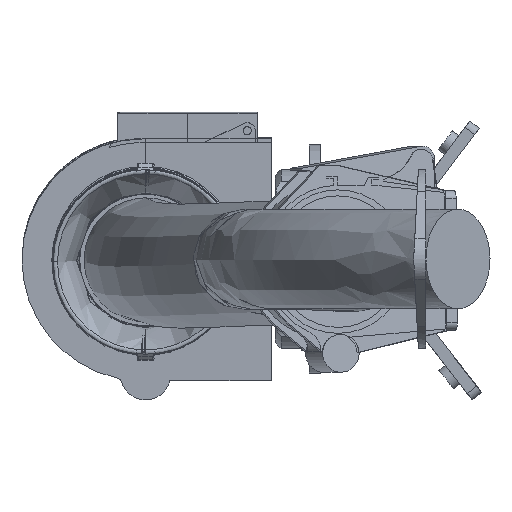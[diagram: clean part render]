
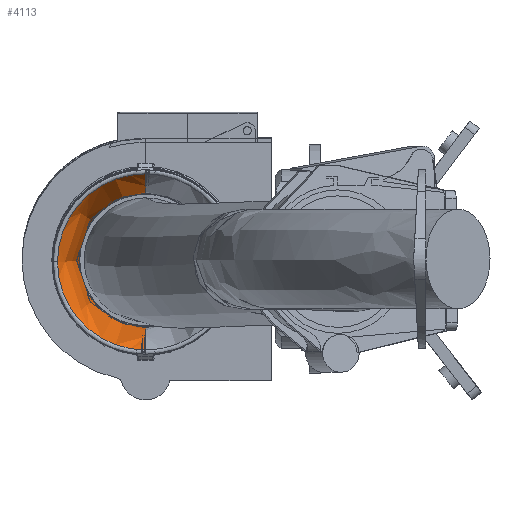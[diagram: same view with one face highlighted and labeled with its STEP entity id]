
A CAD part, left-side view. The second image highlights one B-rep face of the part: STEP entity #4113.
In plain terms, the highlighted free-form (B-spline) face has degree [3, 3] with [9, 4] control points.
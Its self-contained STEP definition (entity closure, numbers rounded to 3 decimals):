
#194 = CARTESIAN_POINT ( 'NONE',  ( 1644.829, 296.369, 1832.74 ) ) ;
#465 = DIRECTION ( 'NONE',  ( -1., 0., -0.028 ) ) ;
#773 = CARTESIAN_POINT ( 'NONE',  ( 1631.644, 229.5, 1762.155 ) ) ;
#971 = CARTESIAN_POINT ( 'NONE',  ( 1636.326, 229.5, 1833.834 ) ) ;
#2111 = CIRCLE ( 'NONE', #8940, 33.324 ) ;
#2155 = DIRECTION ( 'NONE',  ( -1., 0., -0.028 ) ) ;
#2642 = CIRCLE ( 'NONE', #29744, 44.196 ) ;
#3020 = ORIENTED_EDGE ( 'NONE', *, *, #3655, .T. ) ;
#3517 = CARTESIAN_POINT ( 'NONE',  ( 1618.832, 229.5, 1840.919 ) ) ;
#3632 = CARTESIAN_POINT ( 'NONE',  ( 1625.454, 229.5, 1759.039 ) ) ;
#3655 = EDGE_CURVE ( 'NONE', #9169, #21367, #36107, .T. ) ;
#4113 = ADVANCED_FACE ( 'NONE', ( #27087 ), #15157, .F. ) ;
#4238 = ORIENTED_EDGE ( 'NONE', *, *, #30033, .F. ) ;
#5313 = DIRECTION ( 'NONE',  ( 0., 1., 0. ) ) ;
#5326 = EDGE_CURVE ( 'NONE', #31260, #15218, #6549, .T. ) ;
#5550 = ORIENTED_EDGE ( 'NONE', *, *, #19263, .F. ) ;
#5662 = CARTESIAN_POINT ( 'NONE',  ( 1641.93, 297.006, 1832.977 ) ) ;
#5857 = CARTESIAN_POINT ( 'NONE',  ( 1648.145, 229.5, 1766.048 ) ) ;
#6048 = CARTESIAN_POINT ( 'NONE',  ( 1646.709, 296.369, 1765.898 ) ) ;
#6420 = CARTESIAN_POINT ( 'NONE',  ( 1643.828, 297.006, 1765.498 ) ) ;
#6549 = B_SPLINE_CURVE_WITH_KNOTS ( 'NONE', 3,
 ( #27189, #6905, #36444, #27374, #30238, #3632, #15250, #24480, #13115 ),
 .UNSPECIFIED., .F., .F.,
 ( 4, 1, 1, 1, 1, 1, 4 ),
 ( 0., 0.125, 0.25, 0.5, 0.75, 0.875, 0.955 ),
 .UNSPECIFIED. ) ;
#6608 = CARTESIAN_POINT ( 'NONE',  ( 1616.904, 229.5, 1842.189 ) ) ;
#6616 = CARTESIAN_POINT ( 'NONE',  ( 1616.165, 229.5, 1842.7 ) ) ;
#6812 = CARTESIAN_POINT ( 'NONE',  ( 1618.832, 229.5, 1840.919 ) ) ;
#6905 = CARTESIAN_POINT ( 'NONE',  ( 1646.709, 229.5, 1765.898 ) ) ;
#7626 = CIRCLE ( 'NONE', #33491, 44.196 ) ;
#8571 = CARTESIAN_POINT ( 'NONE',  ( 1641.93, 229.5, 1832.977 ) ) ;
#8940 = AXIS2_PLACEMENT_3D ( 'NONE', #17456, #2155, #29178 ) ;
#9169 = VERTEX_POINT ( 'NONE', #15601 ) ;
#9688 = CARTESIAN_POINT ( 'NONE',  ( 1644.829, 229.5, 1832.74 ) ) ;
#10123 = VERTEX_POINT ( 'NONE', #37640 ) ;
#12051 = CARTESIAN_POINT ( 'NONE',  ( 1644.829, 229.5, 1832.74 ) ) ;
#12229 = CARTESIAN_POINT ( 'NONE',  ( 1623.223, 229.5, 1838.394 ) ) ;
#12420 = CARTESIAN_POINT ( 'NONE',  ( 1625.454, 229.5, 1759.039 ) ) ;
#12810 = CARTESIAN_POINT ( 'NONE',  ( 1616.904, 229.5, 1842.189 ) ) ;
#13006 = CARTESIAN_POINT ( 'NONE',  ( 1641.93, 229.5, 1832.977 ) ) ;
#13014 = CARTESIAN_POINT ( 'NONE',  ( 1623.223, 308.886, 1838.394 ) ) ;
#13115 = CARTESIAN_POINT ( 'NONE',  ( 1618.65, 229.5, 1754.342 ) ) ;
#14590 = CARTESIAN_POINT ( 'NONE',  ( 1646.271, 229.5, 1832.67 ) ) ;
#14631 = CIRCLE ( 'NONE', #35514, 33.324 ) ;
#15139 = CARTESIAN_POINT ( 'NONE',  ( 1629.578, 229.5, 1835.63 ) ) ;
#15157 =( BOUNDED_SURFACE ( )  B_SPLINE_SURFACE ( 3, 3, ( 
 ( #5857, #21105, #32490, #14590 ),
 ( #17663, #6048, #194, #12051 ),
 ( #32868, #6420, #5662, #8571 ),
 ( #20354, #17472, #18983, #971 ),
 ( #773, #16105, #30700, #27458 ),
 ( #12420, #33808, #13014, #21683 ),
 ( #21866, #27825, #28006, #6812 ),
 ( #15715, #36125, #15907, #12810 ),
 ( #24374, #22049, #19175, #6616 ) ),
 .UNSPECIFIED., .F., .F., .F. ) 
 B_SPLINE_SURFACE_WITH_KNOTS ( ( 4, 1, 1, 1, 1, 1, 4 ),
 ( 4, 4 ),
 ( 0., 0.125, 0.25, 0.5, 0.75, 0.875, 0.955 ),
 ( 0., 1. ),
 .UNSPECIFIED. ) 
 GEOMETRIC_REPRESENTATION_ITEM ( )  RATIONAL_B_SPLINE_SURFACE ( (
 ( 1., 0.333, 0.333, 1.),
 ( 1., 0.333, 0.333, 1.),
 ( 1., 0.333, 0.333, 1.),
 ( 1., 0.333, 0.333, 1.),
 ( 1., 0.333, 0.333, 1.),
 ( 1., 0.333, 0.333, 1.),
 ( 1., 0.333, 0.333, 1.),
 ( 1., 0.333, 0.333, 1.),
 ( 1., 0.333, 0.333, 1.) ) ) 
 REPRESENTATION_ITEM ( '' )  SURFACE ( )  );
#15218 = VERTEX_POINT ( 'NONE', #35731 ) ;
#15250 = CARTESIAN_POINT ( 'NONE',  ( 1621.212, 229.5, 1756.27 ) ) ;
#15601 = CARTESIAN_POINT ( 'NONE',  ( 1646.271, 229.5, 1832.67 ) ) ;
#15715 = CARTESIAN_POINT ( 'NONE',  ( 1619.358, 229.5, 1754.894 ) ) ;
#15907 = CARTESIAN_POINT ( 'NONE',  ( 1616.904, 316.83, 1842.189 ) ) ;
#16105 = CARTESIAN_POINT ( 'NONE',  ( 1631.644, 303.004, 1762.155 ) ) ;
#17456 = CARTESIAN_POINT ( 'NONE',  ( 1647.208, 229.5, 1799.359 ) ) ;
#17472 = CARTESIAN_POINT ( 'NONE',  ( 1638.28, 299.035, 1764.327 ) ) ;
#17663 = CARTESIAN_POINT ( 'NONE',  ( 1646.709, 229.5, 1765.898 ) ) ;
#17967 = ORIENTED_EDGE ( 'NONE', *, *, #5326, .F. ) ;
#18021 = CARTESIAN_POINT ( 'NONE',  ( 1636.326, 229.5, 1833.834 ) ) ;
#18409 = CARTESIAN_POINT ( 'NONE',  ( 1616.165, 229.5, 1842.7 ) ) ;
#18983 = CARTESIAN_POINT ( 'NONE',  ( 1636.326, 299.035, 1833.834 ) ) ;
#19175 = CARTESIAN_POINT ( 'NONE',  ( 1616.165, 317.892, 1842.7 ) ) ;
#19263 = EDGE_CURVE ( 'NONE', #15218, #10123, #2642, .T. ) ;
#19889 = ORIENTED_EDGE ( 'NONE', *, *, #28172, .F. ) ;
#20354 = CARTESIAN_POINT ( 'NONE',  ( 1638.28, 229.5, 1764.327 ) ) ;
#21105 = CARTESIAN_POINT ( 'NONE',  ( 1648.145, 296.148, 1766.048 ) ) ;
#21367 = VERTEX_POINT ( 'NONE', #28395 ) ;
#21683 = CARTESIAN_POINT ( 'NONE',  ( 1623.223, 229.5, 1838.394 ) ) ;
#21866 = CARTESIAN_POINT ( 'NONE',  ( 1621.212, 229.5, 1756.27 ) ) ;
#22049 = CARTESIAN_POINT ( 'NONE',  ( 1618.65, 317.892, 1754.342 ) ) ;
#22790 = CARTESIAN_POINT ( 'NONE',  ( 1617.408, 229.5, 1798.521 ) ) ;
#24374 = CARTESIAN_POINT ( 'NONE',  ( 1618.65, 229.5, 1754.342 ) ) ;
#24480 = CARTESIAN_POINT ( 'NONE',  ( 1619.358, 229.5, 1754.894 ) ) ;
#26305 = CARTESIAN_POINT ( 'NONE',  ( 1648.145, 229.5, 1766.048 ) ) ;
#27087 = FACE_OUTER_BOUND ( 'NONE', #30481, .T. ) ;
#27189 = CARTESIAN_POINT ( 'NONE',  ( 1648.145, 229.5, 1766.048 ) ) ;
#27374 = CARTESIAN_POINT ( 'NONE',  ( 1638.28, 229.5, 1764.327 ) ) ;
#27458 = CARTESIAN_POINT ( 'NONE',  ( 1629.578, 229.5, 1835.63 ) ) ;
#27567 = EDGE_CURVE ( 'NONE', #10123, #21367, #7626, .T. ) ;
#27825 = CARTESIAN_POINT ( 'NONE',  ( 1621.212, 314.183, 1756.27 ) ) ;
#28006 = CARTESIAN_POINT ( 'NONE',  ( 1618.832, 314.183, 1840.919 ) ) ;
#28172 = EDGE_CURVE ( 'NONE', #35071, #31260, #2111, .T. ) ;
#28395 = CARTESIAN_POINT ( 'NONE',  ( 1616.165, 229.5, 1842.7 ) ) ;
#28458 = CARTESIAN_POINT ( 'NONE',  ( 1617.408, 229.5, 1798.521 ) ) ;
#29178 = DIRECTION ( 'NONE',  ( 0., 1., 0. ) ) ;
#29645 = DIRECTION ( 'NONE',  ( 0., 1., 0. ) ) ;
#29744 = AXIS2_PLACEMENT_3D ( 'NONE', #28458, #31378, #5313 ) ;
#30033 = EDGE_CURVE ( 'NONE', #9169, #35071, #14631, .T. ) ;
#30238 = CARTESIAN_POINT ( 'NONE',  ( 1631.644, 229.5, 1762.155 ) ) ;
#30467 = ORIENTED_EDGE ( 'NONE', *, *, #27567, .F. ) ;
#30481 = EDGE_LOOP ( 'NONE', ( #17967, #19889, #4238, #3020, #30467, #5550 ) ) ;
#30700 = CARTESIAN_POINT ( 'NONE',  ( 1629.578, 303.004, 1835.63 ) ) ;
#31260 = VERTEX_POINT ( 'NONE', #26305 ) ;
#31378 = DIRECTION ( 'NONE',  ( 1., 0., 0.028 ) ) ;
#31445 = DIRECTION ( 'NONE',  ( 0., 1., 0. ) ) ;
#32490 = CARTESIAN_POINT ( 'NONE',  ( 1646.271, 296.148, 1832.67 ) ) ;
#32868 = CARTESIAN_POINT ( 'NONE',  ( 1643.828, 229.5, 1765.498 ) ) ;
#33055 = CARTESIAN_POINT ( 'NONE',  ( 1646.271, 229.5, 1832.67 ) ) ;
#33315 = CARTESIAN_POINT ( 'NONE',  ( 1647.208, 229.5, 1799.359 ) ) ;
#33435 = CARTESIAN_POINT ( 'NONE',  ( 1647.208, 262.824, 1799.359 ) ) ;
#33491 = AXIS2_PLACEMENT_3D ( 'NONE', #22790, #34549, #31445 ) ;
#33808 = CARTESIAN_POINT ( 'NONE',  ( 1625.454, 308.886, 1759.039 ) ) ;
#34549 = DIRECTION ( 'NONE',  ( 1., 0., 0.028 ) ) ;
#35071 = VERTEX_POINT ( 'NONE', #33435 ) ;
#35514 = AXIS2_PLACEMENT_3D ( 'NONE', #33315, #465, #29645 ) ;
#35731 = CARTESIAN_POINT ( 'NONE',  ( 1618.65, 229.5, 1754.342 ) ) ;
#36107 = B_SPLINE_CURVE_WITH_KNOTS ( 'NONE', 3,
 ( #33055, #9688, #13006, #18021, #15139, #12229, #3517, #6608, #18409 ),
 .UNSPECIFIED., .F., .F.,
 ( 4, 1, 1, 1, 1, 1, 4 ),
 ( 0., 0.125, 0.25, 0.5, 0.75, 0.875, 0.955 ),
 .UNSPECIFIED. ) ;
#36125 = CARTESIAN_POINT ( 'NONE',  ( 1619.358, 316.83, 1754.894 ) ) ;
#36444 = CARTESIAN_POINT ( 'NONE',  ( 1643.828, 229.5, 1765.498 ) ) ;
#37640 = CARTESIAN_POINT ( 'NONE',  ( 1617.408, 273.696, 1798.521 ) ) ;
